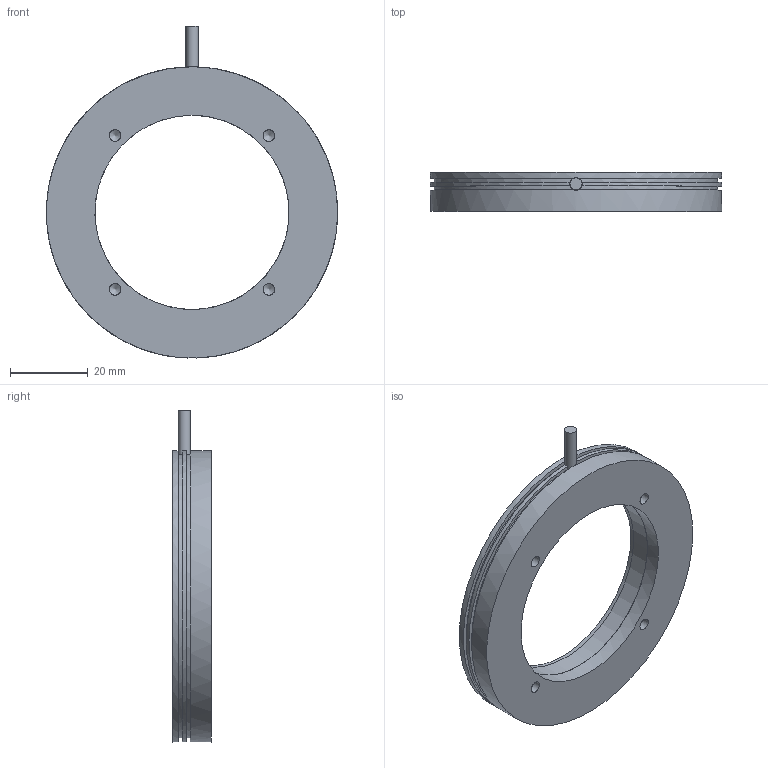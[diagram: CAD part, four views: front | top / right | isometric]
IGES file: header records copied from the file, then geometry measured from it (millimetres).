
Global section: file name: 153-00733_LR 75 xI-24-KFL5; native system: Autodesk Inventor 2018; preprocessor: unknown; author: ss; date: 20180725.093042; units: millimetre
Bounding box: 75 x 10 x 85.48 mm (x, y, z)
Volume: 23998 mm3; surface area: 13164.9 mm2
Topology: 3 solids, 3 shells, 39 faces, 107 edges, 75 vertices
Faces by surface type: bspline 39
